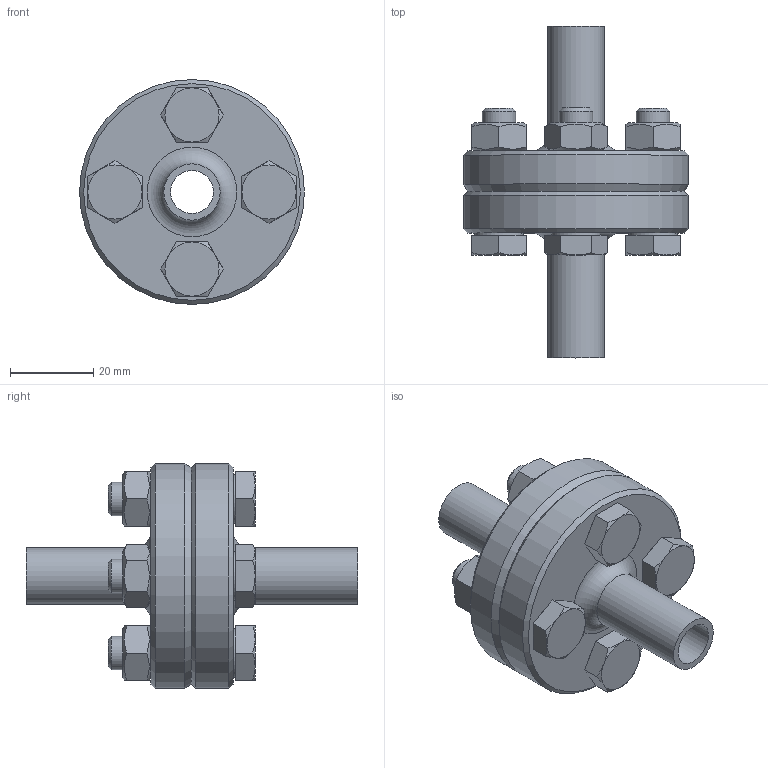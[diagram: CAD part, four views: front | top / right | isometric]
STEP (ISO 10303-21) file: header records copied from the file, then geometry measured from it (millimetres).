
FILE_DESCRIPTION(/* description */ ('DIN11864-2-A_13,5x1,6_L80_Fl54'),/* implementation_level */ '2;1');
FILE_NAME(/* name */ 'DIN11864-2-A_13,5x1,6_L80_Fl54.stp',/* time_stamp */ '2015-01-07T13:14:23+01:00',/* author */ ('DOCKWEILER AG'),/* organization */ ('DOCKWEILER AG'),/* preprocessor_version */ 'ST-DEVELOPER v15.6',/* originating_system */ 'Autodesk Inventor 2015',/* authorisation */ '');
FILE_SCHEMA (('CONFIG_CONTROL_DESIGN'));
Length unit declared in the file: millimetre
Products named in the file (6): N0003_007_003_13; N0003_007_004_13; N005_005_002_001_12; ISO 4032 - M8ISO; ISO 4017 - M8 x 30ISO; N0024_002_002
Assembly tree (11 placements, depth 2):
  N0024_002_002
    N0003_007_003_13
    N0003_007_004_13
    N005_005_002_001_12
    ISO 4032 - M8ISO  x4
    ISO 4017 - M8 x 30ISO  x4
Bounding box: 54 x 79.7 x 54 mm (x, y, z)
Volume: 53974 mm3; surface area: 26272.2 mm2
Topology: 11 solids, 11 shells, 174 faces, 362 edges, 222 vertices
Faces by surface type: plane 82, cone 52, cylinder 28, torus 12
Full cylindrical faces by diameter (mm): 6.647 x4, 8 x4, 9 x8, 10.3 x2, 11.63 x4, 13.5 x2, 22.3 x1, 22.4 x1, 54 x2
Entity records: 2080 total; most frequent: DIRECTION 352, CARTESIAN_POINT 352, ORIENTED_EDGE 228, AXIS2_PLACEMENT_3D 167, EDGE_LOOP 151, EDGE_CURVE 114, VERTEX_POINT 95, FACE_OUTER_BOUND 78
